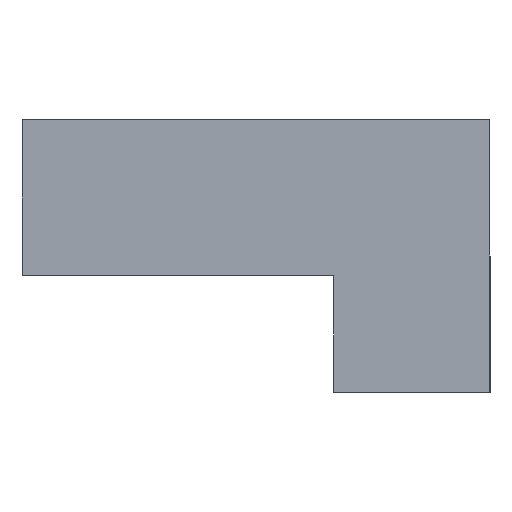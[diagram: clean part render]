
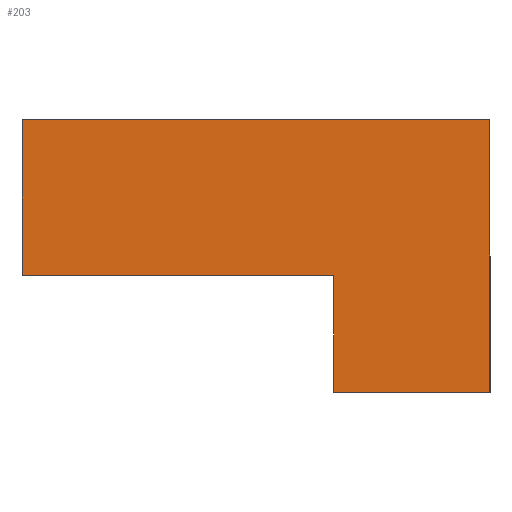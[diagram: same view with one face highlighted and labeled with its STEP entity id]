
A CAD part, left-side view. The second image highlights one B-rep face of the part: STEP entity #203.
In plain terms, the highlighted planar face has unit normal (-1, 0, 0).
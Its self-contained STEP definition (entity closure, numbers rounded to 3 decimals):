
#22 = VERTEX_POINT('',#23);
#23 = CARTESIAN_POINT('',(-30.,12.,1.));
#40 = VERTEX_POINT('',#41);
#41 = CARTESIAN_POINT('',(-30.,0.,1.));
#47 = EDGE_CURVE('',#22,#40,#48,.T.);
#48 = LINE('',#49,#50);
#49 = CARTESIAN_POINT('',(-30.,12.,1.));
#50 = VECTOR('',#51,1.);
#51 = DIRECTION('',(0.,-1.,0.));
#71 = VERTEX_POINT('',#72);
#72 = CARTESIAN_POINT('',(-30.,0.,-6.));
#78 = EDGE_CURVE('',#40,#71,#79,.T.);
#79 = LINE('',#80,#81);
#80 = CARTESIAN_POINT('',(-30.,0.,1.));
#81 = VECTOR('',#82,1.);
#82 = DIRECTION('',(0.,0.,-1.));
#102 = VERTEX_POINT('',#103);
#103 = CARTESIAN_POINT('',(-30.,4.,-6.));
#109 = EDGE_CURVE('',#71,#102,#110,.T.);
#110 = LINE('',#111,#112);
#111 = CARTESIAN_POINT('',(-30.,0.,-6.));
#112 = VECTOR('',#113,1.);
#113 = DIRECTION('',(0.,1.,0.));
#133 = VERTEX_POINT('',#134);
#134 = CARTESIAN_POINT('',(-30.,4.,-3.));
#140 = EDGE_CURVE('',#102,#133,#141,.T.);
#141 = LINE('',#142,#143);
#142 = CARTESIAN_POINT('',(-30.,4.,-6.));
#143 = VECTOR('',#144,1.);
#144 = DIRECTION('',(0.,0.,1.));
#164 = VERTEX_POINT('',#165);
#165 = CARTESIAN_POINT('',(-30.,12.,-3.));
#171 = EDGE_CURVE('',#133,#164,#172,.T.);
#172 = LINE('',#173,#174);
#173 = CARTESIAN_POINT('',(-30.,4.,-3.));
#174 = VECTOR('',#175,1.);
#175 = DIRECTION('',(0.,1.,0.));
#193 = EDGE_CURVE('',#164,#22,#194,.T.);
#194 = LINE('',#195,#196);
#195 = CARTESIAN_POINT('',(-30.,12.,-3.));
#196 = VECTOR('',#197,1.);
#197 = DIRECTION('',(0.,0.,1.));
#203 = ADVANCED_FACE('',(#204),#212,.F.);
#204 = FACE_BOUND('',#205,.F.);
#205 = EDGE_LOOP('',(#206,#207,#208,#209,#210,#211));
#206 = ORIENTED_EDGE('',*,*,#47,.T.);
#207 = ORIENTED_EDGE('',*,*,#78,.T.);
#208 = ORIENTED_EDGE('',*,*,#109,.T.);
#209 = ORIENTED_EDGE('',*,*,#140,.T.);
#210 = ORIENTED_EDGE('',*,*,#171,.T.);
#211 = ORIENTED_EDGE('',*,*,#193,.T.);
#212 = PLANE('',#213);
#213 = AXIS2_PLACEMENT_3D('',#214,#215,#216);
#214 = CARTESIAN_POINT('',(-30.,5.368,-1.868));
#215 = DIRECTION('',(1.,0.,0.));
#216 = DIRECTION('',(0.,0.,1.));
